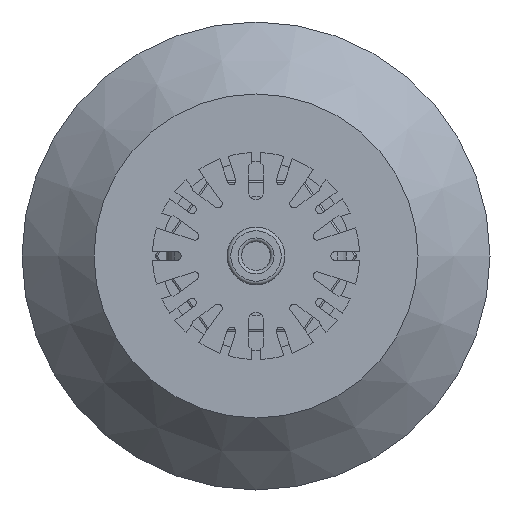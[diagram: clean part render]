
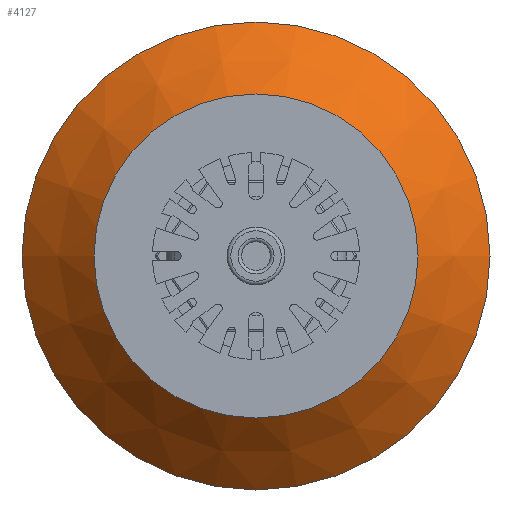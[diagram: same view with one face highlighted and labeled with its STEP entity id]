
A CAD part, front view. The second image highlights one B-rep face of the part: STEP entity #4127.
In plain terms, the highlighted conical face has half-angle 45 degrees and reference radius 34.925 mm.
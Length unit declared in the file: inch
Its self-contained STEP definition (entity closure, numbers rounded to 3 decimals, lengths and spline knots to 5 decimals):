
#292=FACE_OUTER_BOUND('',#519,.T.);
#519=EDGE_LOOP('',(#2693,#2694,#2695,#2696,#2697,#2698));
#752=LINE('',#6158,#1096);
#1096=VECTOR('',#4912,1.375);
#1446=CIRCLE('',#4424,1.625);
#1447=CIRCLE('',#4425,1.625);
#1450=CIRCLE('',#4429,1.125);
#1451=CIRCLE('',#4430,1.125);
#1673=VERTEX_POINT('',#6145);
#1674=VERTEX_POINT('',#6146);
#1677=VERTEX_POINT('',#6154);
#1678=VERTEX_POINT('',#6155);
#2071=EDGE_CURVE('',#1673,#1674,#1446,.T.);
#2072=EDGE_CURVE('',#1674,#1673,#1447,.T.);
#2075=EDGE_CURVE('',#1677,#1678,#1450,.T.);
#2076=EDGE_CURVE('',#1678,#1677,#1451,.T.);
#2077=EDGE_CURVE('',#1678,#1674,#752,.T.);
#2693=ORIENTED_EDGE('',*,*,#2075,.F.);
#2694=ORIENTED_EDGE('',*,*,#2076,.F.);
#2695=ORIENTED_EDGE('',*,*,#2077,.T.);
#2696=ORIENTED_EDGE('',*,*,#2072,.T.);
#2697=ORIENTED_EDGE('',*,*,#2071,.T.);
#2698=ORIENTED_EDGE('',*,*,#2077,.F.);
#3890=CONICAL_SURFACE('',#4428,1.375,0.785);
#4127=ADVANCED_FACE('',(#292),#3890,.T.);
#4424=AXIS2_PLACEMENT_3D('',#6147,#4898,#4899);
#4425=AXIS2_PLACEMENT_3D('',#6148,#4900,#4901);
#4428=AXIS2_PLACEMENT_3D('',#6153,#4906,#4907);
#4429=AXIS2_PLACEMENT_3D('',#6156,#4908,#4909);
#4430=AXIS2_PLACEMENT_3D('',#6157,#4910,#4911);
#4898=DIRECTION('center_axis',(0.,-1.,0.));
#4899=DIRECTION('ref_axis',(1.,0.,0.));
#4900=DIRECTION('center_axis',(0.,-1.,0.));
#4901=DIRECTION('ref_axis',(1.,0.,0.));
#4906=DIRECTION('center_axis',(0.,1.,0.));
#4907=DIRECTION('ref_axis',(-1.,0.,0.));
#4908=DIRECTION('center_axis',(0.,-1.,0.));
#4909=DIRECTION('ref_axis',(1.,0.,0.));
#4910=DIRECTION('center_axis',(0.,-1.,0.));
#4911=DIRECTION('ref_axis',(1.,0.,0.));
#4912=DIRECTION('',(0.707,0.707,0.));
#6145=CARTESIAN_POINT('',(-1.625,2.5,0.));
#6146=CARTESIAN_POINT('',(1.625,2.5,0.));
#6147=CARTESIAN_POINT('Origin',(0.,2.5,0.));
#6148=CARTESIAN_POINT('Origin',(0.,2.5,0.));
#6153=CARTESIAN_POINT('Origin',(0.,2.25,0.));
#6154=CARTESIAN_POINT('',(-1.125,2.,0.));
#6155=CARTESIAN_POINT('',(1.125,2.,0.));
#6156=CARTESIAN_POINT('Origin',(0.,2.,0.));
#6157=CARTESIAN_POINT('Origin',(0.,2.,0.));
#6158=CARTESIAN_POINT('',(1.375,2.25,0.));
